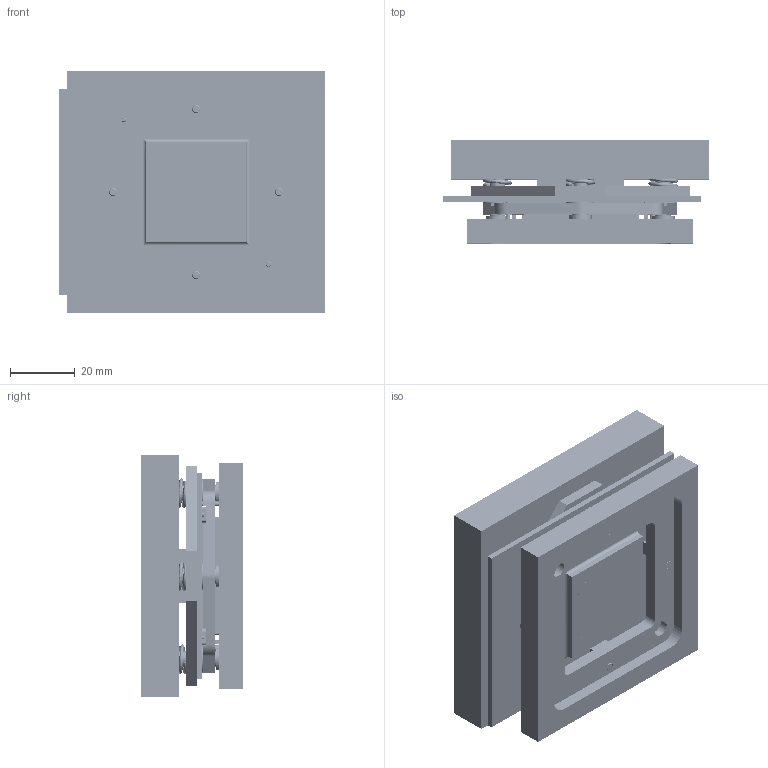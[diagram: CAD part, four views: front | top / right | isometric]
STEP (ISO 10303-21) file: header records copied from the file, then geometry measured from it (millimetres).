
FILE_DESCRIPTION (( 'STEP AP214' ), '1' );
FILE_NAME ('2519049.STEP', '2023-10-10T12:54:32', ( '' ), ( '' ), 'SwSTEP 2.0', 'SolidWorks 2021', '' );
FILE_SCHEMA (( 'AUTOMOTIVE_DESIGN' ));
Length unit declared in the file: millimetre
Products named in the file (23): 2519049; TA-98-4K-SST-CeramicPillowSTEP-wAperture; 2517998; 2515701; 2517976; 2516868; LEE-MS24585-355-305-SPRING_aSSY-iSO; 2517999; LEE-MS24585-1272-305-SPRING_aSSY-iSO; Pad-Electrical; 2518002-Compressed; TA-9-Pillow-WGlass; 2518000; 2516867; Pad-Pattern-321-PCB; 2518001; 2518450-TA-98-4K-SST-DMD; 2515700; Pad-Pattern-321; Pad-Marking; Pad-Electrical-PCB; 2501154
Assembly tree (658 placements, depth 4):
  2519049
    2516868
    2518450-TA-98-4K-SST-DMD
      TA-98-4K-SST-CeramicPillowSTEP-wAperture
      TA-9-Pillow-WGlass
      Pad-Marking
      Pad-Pattern-321
        Pad-Electrical  x321
    2515700
      2501154
      2515701
    2516867
      2516867
      Pad-Pattern-321-PCB
        Pad-Electrical-PCB  x305
    2518001
    2518000
    2518002-Compressed
    2517998
    2517999  x4
    LEE-MS24585-1272-305-SPRING_aSSY-iSO  x4
    LEE-MS24585-355-305-SPRING_aSSY-iSO  x4
    2517976  x4
Bounding box: 82.62 x 31.82 x 75 mm (x, y, z)
Volume: 121152.4 mm3; surface area: 77031.9 mm2
Topology: 653 solids, 653 shells, 4375 faces, 8767 edges, 5687 vertices
Faces by surface type: cylinder 2357, plane 1785, bspline 104, cone 73, torus 56
Entity records: 67639 total; most frequent: CARTESIAN_POINT 18560, DIRECTION 10158, ORIENTED_EDGE 8910, EDGE_CURVE 4455, AXIS2_PLACEMENT_3D 4029, VERTEX_POINT 2900, EDGE_LOOP 2387, VECTOR 2100
